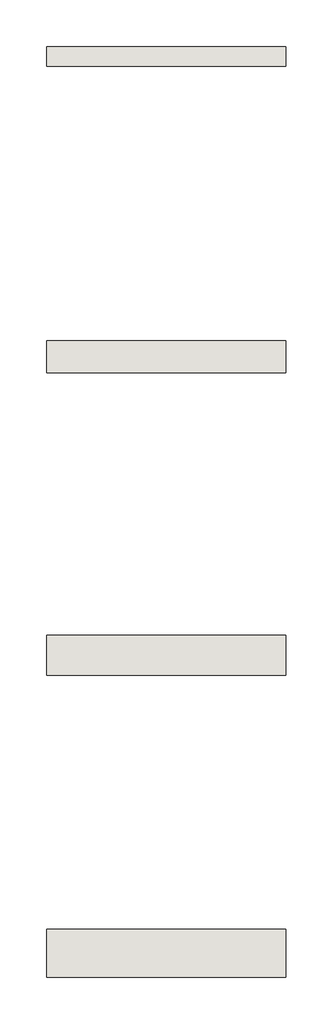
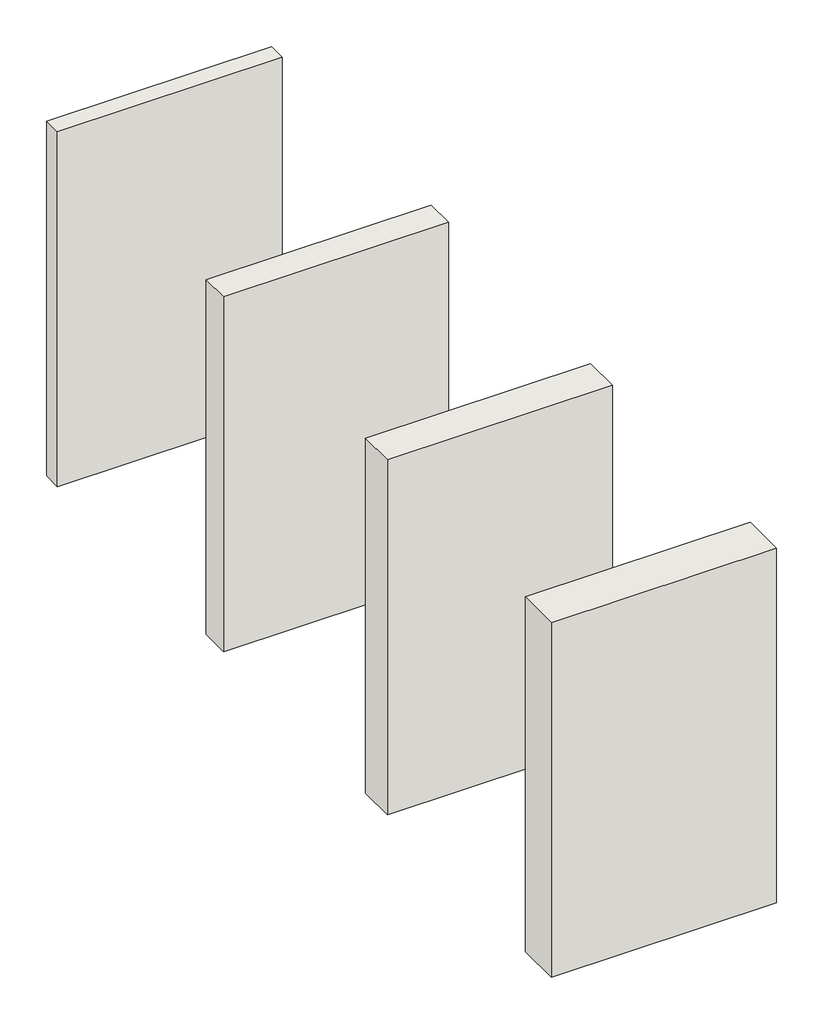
# One storey: 4 walls.
"""IFC4 building model written with IfcOpenShell, lengths in millimetres."""

import ifcopenshell
import ifcopenshell.guid

model = None  # the IFC model being written
_history = None  # IfcOwnerHistory: only IFC2X3 demands one
_inside = {}  # id of a spatial element -> (the spatial element, [elements in it])
_under = {}  # id of a project, library or spatial element -> (it, [spatial elements below it])
_declared = {}  # id of a project -> (the project, [libraries it declares])
_typed = {}  # id of a type object -> (the type object, [elements of that type])
_made_of = {}  # id of a material, layer set ... -> (it, [elements and type objects made of it])


def new_model(schema):
    """Start an empty IFC model of exactly this schema.

    Asked for "IFC4X3", IfcOpenShell would pick the latest addendum, in which some entities
    have other attributes; the version numbers below select the first issue.
    IFC2X3 requires an IfcOwnerHistory on every rooted entity: one is made here for all.
    """
    global model, _history
    if schema == "IFC4X3":
        model = ifcopenshell.file(schema_version=(4, 3, 0, 0))
    else:
        model = ifcopenshell.file(schema=schema)
    _inside.clear()
    _under.clear()
    _declared.clear()
    _typed.clear()
    _made_of.clear()
    _history = None
    if model.schema == "IFC2X3":
        org = make("IfcOrganization", Name="unknown")
        user = make(
            "IfcPersonAndOrganization",
            ThePerson=make("IfcPerson", FamilyName="unknown"),
            TheOrganization=org,
        )
        app = make(
            "IfcApplication",
            ApplicationDeveloper=org,
            Version="unknown",
            ApplicationFullName="unknown",
            ApplicationIdentifier="unknown",
        )
        _history = make(
            "IfcOwnerHistory",
            OwningUser=user,
            OwningApplication=app,
            ChangeAction="ADDED",
            CreationDate=0,
        )
    return model


def make(cls, **values):
    """One entity of the class cls with the attributes given. An attribute that is None is left unset."""
    return model.create_entity(
        cls, **{name: value for name, value in values.items() if value is not None}
    )


def rooted(cls, **values):
    """An entity with a GlobalId (a new one), such as an element, a storey or a relation."""
    return make(cls, GlobalId=ifcopenshell.guid.new(), OwnerHistory=_history, **values)


def si_unit(unit_type, name, prefix=None):
    """IfcSIUnit, for example si_unit("LENGTHUNIT", "METRE", prefix="MILLI")."""
    return make("IfcSIUnit", UnitType=unit_type, Prefix=prefix, Name=name)


def assignment(units):
    """IfcUnitAssignment: the units of a project."""
    return None if units is None else make("IfcUnitAssignment", Units=units)


def point(xyz):
    """IfcCartesianPoint."""
    return None if xyz is None else make("IfcCartesianPoint", Coordinates=xyz)


def direction(xyz):
    """IfcDirection."""
    return None if xyz is None else make("IfcDirection", DirectionRatios=xyz)


def frame(location, z_axis=None, x_axis=None):
    """IfcAxis2Placement3D, a coordinate frame: its origin and axes. An axis left out is left unset."""
    return make(
        "IfcAxis2Placement3D",
        Location=point(location),
        Axis=direction(z_axis),
        RefDirection=direction(x_axis),
    )


def origin():
    """The frame at (0, 0, 0) with its axes left unset."""
    return frame((0.0, 0.0, 0.0))


def origin_with_axes():
    """The frame at (0, 0, 0) with the z axis (0, 0, 1) and the x axis (1, 0, 0) written out."""
    return frame((0.0, 0.0, 0.0), z_axis=(0.0, 0.0, 1.0), x_axis=(1.0, 0.0, 0.0))


def place(relative_to, where):
    """IfcLocalPlacement: puts the frame where relative to a parent placement (None: the world)."""
    return make(
        "IfcLocalPlacement", PlacementRelTo=relative_to, RelativePlacement=where
    )


def context(
    kind, dimensions, precision=None, world=None, true_north=None, identifier=None
):
    """IfcGeometricRepresentationContext, for example the 3D "Model" context."""
    return make(
        "IfcGeometricRepresentationContext",
        ContextIdentifier=identifier,
        ContextType=kind,
        CoordinateSpaceDimension=dimensions,
        Precision=precision,
        WorldCoordinateSystem=world,
        TrueNorth=true_north,
    )


def project(units=None, contexts=None):
    """IfcProject with its units and contexts."""
    return rooted(
        "IfcProject",
        Name="project",
        RepresentationContexts=contexts,
        UnitsInContext=assignment(units),
    )


def spatial(cls, under=None, at=None, **own):
    """A site, building, storey or space (cls), placed at a placement, below another one or the project."""
    s = rooted(cls, ObjectPlacement=at, **own)
    if under is not None:
        _under.setdefault(under.id(), (under, []))[1].append(s)
    return s


def polyline(points):
    """IfcPolyline through the points."""
    return make("IfcPolyline", Points=[point(p) for p in points])


def outline(outer, holes=None, kind="AREA"):
    """IfcArbitraryClosedProfileDef: a profile drawn as a closed curve; with holes, ...WithVoids."""
    if holes is None:
        return make("IfcArbitraryClosedProfileDef", ProfileType=kind, OuterCurve=outer)
    return make(
        "IfcArbitraryProfileDefWithVoids",
        ProfileType=kind,
        OuterCurve=outer,
        InnerCurves=holes,
    )


def extrude(swept, where, along, depth):
    """IfcExtrudedAreaSolid: the profile swept, set in the frame where, extruded along a direction by depth."""
    return make(
        "IfcExtrudedAreaSolid",
        SweptArea=swept,
        Position=where,
        ExtrudedDirection=direction(along),
        Depth=depth,
    )


def shape(context_of_items, identifier, shape_type, items):
    """IfcShapeRepresentation: the items that make up one representation, for example the "Body"."""
    return make(
        "IfcShapeRepresentation",
        ContextOfItems=context_of_items,
        RepresentationIdentifier=identifier,
        RepresentationType=shape_type,
        Items=items,
    )


def made_of(thing, what):
    """Note that an element or type object is made of a material, layer set ...; save() writes the relation."""
    if what is not None:
        _made_of.setdefault(what.id(), (what, []))[1].append(thing)
    return thing


def element(
    cls,
    number,
    at=None,
    inside=None,
    cuts=None,
    type_object=None,
    material=None,
    context=None,
    identifier="Body",
    shape_type=None,
    held_by="IfcProductDefinitionShape",
    body=None,
    shapes=None,
    **own,
):
    """One element of the class cls, such as IfcWall. Its Tag is "e" and its number.

    at: its placement. inside: the storey or other place that contains it. cuts: it is an
    opening in that element (IfcRelVoidsElement). A single representation is given by context,
    identifier, shape_type and body (its items); several are given by shapes. held_by: the class
    of the entity that holds the representations. save() writes the other relations.
    """
    e = rooted(cls, Tag="e%d" % number, ObjectPlacement=at, **own)
    if body is not None:
        shapes = [shape(context, identifier, shape_type, body)]
    if shapes is not None:
        e.Representation = make(held_by, Representations=shapes)
    if inside is not None:
        _inside.setdefault(inside.id(), (inside, []))[1].append(e)
    if cuts is not None:
        rooted(
            "IfcRelVoidsElement", RelatingBuildingElement=cuts, RelatedOpeningElement=e
        )
    if type_object is not None:
        _typed.setdefault(type_object.id(), (type_object, []))[1].append(e)
    return made_of(e, material)


def aggregate(whole, parts):
    """IfcRelAggregates: a whole, such as a stair, and the parts it consists of."""
    return rooted("IfcRelAggregates", RelatingObject=whole, RelatedObjects=parts)


def save(model, path):
    """Write the relations noted so far, then the file.

    IfcRelAggregates (storeys below a building ...), IfcRelContainedInSpatialStructure (elements
    in a storey), IfcRelDefinesByType, IfcRelAssociatesMaterial and IfcRelDeclares: one each for
    every whole, place, type object, material and project.
    """
    for whole, parts in _under.values():
        aggregate(whole, parts)
    for where, things in _inside.values():
        rooted(
            "IfcRelContainedInSpatialStructure",
            RelatedElements=things,
            RelatingStructure=where,
        )
    for kind, things in _typed.values():
        rooted("IfcRelDefinesByType", RelatedObjects=things, RelatingType=kind)
    for what, things in _made_of.values():
        rooted("IfcRelAssociatesMaterial", RelatedObjects=things, RelatingMaterial=what)
    for by, libraries in _declared.values():
        rooted("IfcRelDeclares", RelatingContext=by, RelatedDefinitions=libraries)
    model.write(path)


model = new_model("IFC4")

# Units and contexts
model_context = context("Model", 3, world=origin())
ifc_project = project(units=[si_unit("LENGTHUNIT", "METRE", prefix="MILLI")], contexts=[model_context])

# Site, building, storey
site = spatial("IfcSite", under=ifc_project)
building = spatial("IfcBuilding", under=site)
storey = spatial("IfcBuildingStorey", under=building, Name="Референтни ниво", Elevation=0.0)

# Walls
placement = place(None, origin())
element("IfcWall", 1, ObjectType="Knauf Insulation - NaturBoard VENTACUSTO - 50 mm - 50 x 1000 x 600 mm", at=placement, inside=storey, context=model_context, shape_type="SweptSolid", body=[
    extrude(outline(polyline([(-250028.2417825, 183204.705474), (-250628.2417825, 183204.705474), (-250628.2417825, 183254.705474), (-250028.2417825, 183254.705474), (-250028.2417825, 183204.705474)])), origin_with_axes(), (0.0, 0.0, 1.0), 1000.0),
])
element("IfcWall", 2, ObjectType="Knauf Insulation - NaturBoard VENTACUSTO - 80 mm - 80 x 1000 x 600 mm", at=placement, inside=storey, context=model_context, shape_type="SweptSolid", body=[
    extrude(outline(polyline([(-250028.2417825, 182437.205474), (-250628.2417825, 182437.205474), (-250628.2417825, 182517.205474), (-250028.2417825, 182517.205474), (-250028.2417825, 182437.205474)])), origin_with_axes(), (0.0, 0.0, 1.0), 1000.0),
])
element("IfcWall", 3, ObjectType="Knauf Insulation - NaturBoard VENTACUSTO - 100 mm - 100 x 1000 x 600 mm", at=placement, inside=storey, context=model_context, shape_type="SweptSolid", body=[
    extrude(outline(polyline([(-250028.2417825, 181679.705474), (-250628.2417825, 181679.705474), (-250628.2417825, 181779.705474), (-250028.2417825, 181779.705474), (-250028.2417825, 181679.705474)])), origin_with_axes(), (0.0, 0.0, 1.0), 1000.0),
])
element("IfcWall", 4, ObjectType="Knauf Insulation - NaturBoard VENTACUSTO - 120 mm - 120 x 1000 x 600 mm", at=placement, inside=storey, context=model_context, shape_type="SweptSolid", body=[
    extrude(outline(polyline([(-250028.2417825, 180922.205474), (-250628.2417825, 180922.205474), (-250628.2417825, 181042.205474), (-250028.2417825, 181042.205474), (-250028.2417825, 180922.205474)])), origin_with_axes(), (0.0, 0.0, 1.0), 1000.0),
])

save(model, "model.ifc")
